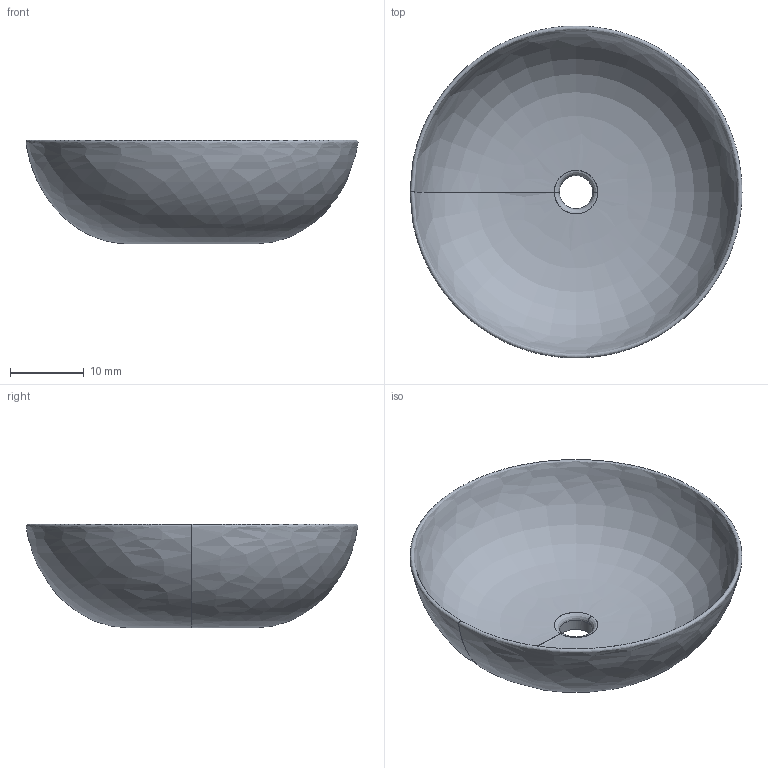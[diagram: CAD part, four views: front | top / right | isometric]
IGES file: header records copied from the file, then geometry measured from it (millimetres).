
Global section: file name: C:\Users\DE NITTO FULVIO\Desktop\Nic\2017\Giugno\Ciotola 45\Modello 3D\Ciotola 45.igs; native system: Rhinoceros ( Oct 24 2012 ); preprocessor: Trout Lake IGES 012 Oct 24 2012; date: 170607.082638; units: millimetre
Bounding box: 44.9 x 44.88 x 14 mm (x, y, z)
Surface area: 4832.2 mm2 (no closed solid volume)
Topology: 0 solids, 0 shells, 4 faces, 31 edges, 32 vertices
Faces by surface type: bspline 4
